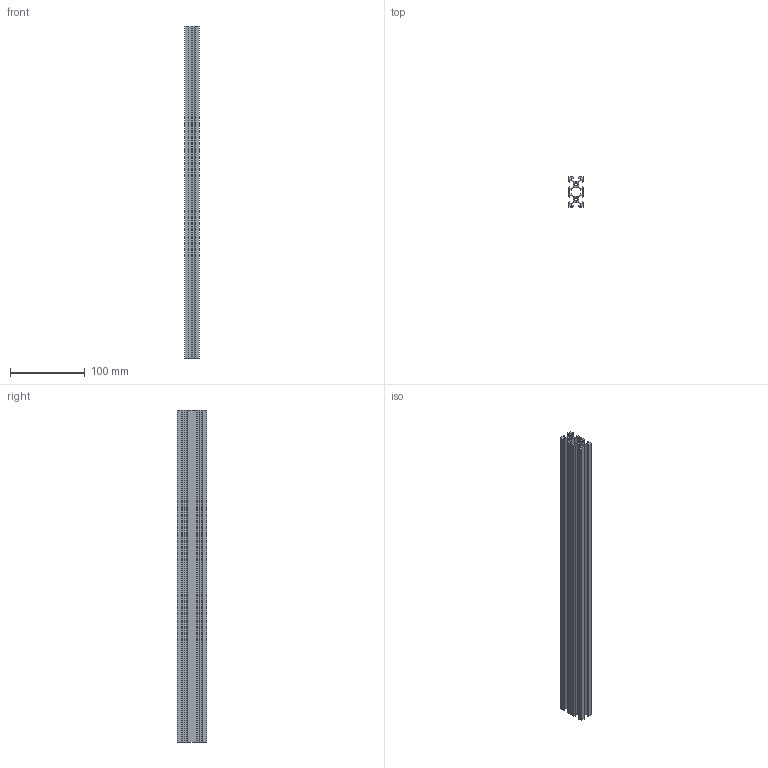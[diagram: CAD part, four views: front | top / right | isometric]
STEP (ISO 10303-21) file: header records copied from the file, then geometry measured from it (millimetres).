
FILE_DESCRIPTION(/* description */ ('STEP AP242 Edition 2','CAx-IF Rec.Pracs.---Representation and Presentation of Product Manufacturing Information (PMI)---4.0---2014-10-13','CAx-IF Rec.Pracs.---3D Tessellated Geometry---0.4---2014-09-14','2;1','CAx-IF Rec.Pracs.---User Defined Attributes---1.5---2016-08-15'),/* implementation_level */ '2;1');
FILE_NAME(/* name */ 'Final Build - rail-X',/* time_stamp */ '2026-08-31T23:26:26Z',/* author */ (''),/* organization */ (''),/* preprocessor_version */ 'ST-DEVELOPER v20',/* originating_system */ 'ONSHAPE BY PTC INC, 1.220',/* authorisation */ ' ');
FILE_SCHEMA (('AP242_MANAGED_MODEL_BASED_3D_ENGINEERING_MIM_LF { 1 0 10303 442 3 1 4 }'));
Length unit declared in the file: metre
Products named in the file (1): rail-X
Bounding box: 20 x 40 x 444 mm (x, y, z)
Volume: 133195.3 mm3; surface area: 132502.3 mm2
Topology: 1 solids, 1 shells, 114 faces, 336 edges, 224 vertices
Faces by surface type: plane 108, cylinder 6
Full cylindrical faces by diameter (mm): 4.2 x2
Entity records: 3756 total; most frequent: CARTESIAN_POINT 673, ORIENTED_EDGE 668, DIRECTION 576, EDGE_CURVE 334, LINE 322, VECTOR 322, VERTEX_POINT 224, AXIS2_PLACEMENT_3D 127
